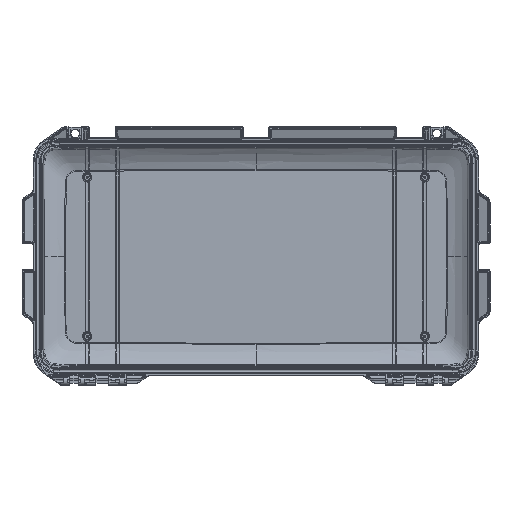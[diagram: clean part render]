
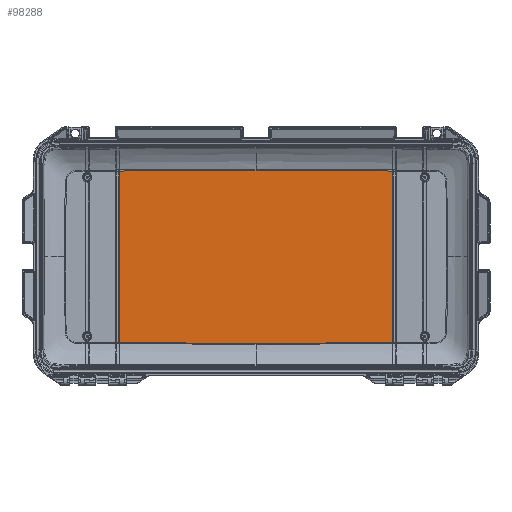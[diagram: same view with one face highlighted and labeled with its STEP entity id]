
A CAD part, front view. The second image highlights one B-rep face of the part: STEP entity #98288.
In plain terms, the highlighted planar face has unit normal (0, -1, 0).
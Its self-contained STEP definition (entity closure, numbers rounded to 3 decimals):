
#514 = CARTESIAN_POINT ( 'NONE',  ( -7.999, 2., -5.029 ) ) ;
#630 = VECTOR ( 'NONE', #18746, 39.37 ) ;
#1793 = VERTEX_POINT ( 'NONE', #36319 ) ;
#3099 = CARTESIAN_POINT ( 'NONE',  ( -7.999, 2., 5.029 ) ) ;
#3448 = LINE ( 'NONE', #50016, #102188 ) ;
#4234 = EDGE_CURVE ( 'NONE', #80826, #5194, #115962, .T. ) ;
#5194 = VERTEX_POINT ( 'NONE', #59925 ) ;
#5418 = CARTESIAN_POINT ( 'NONE',  ( 7.995, 2., -5.029 ) ) ;
#5868 = FACE_OUTER_BOUND ( 'NONE', #33794, .T. ) ;
#9286 = B_SPLINE_CURVE_WITH_KNOTS ( 'NONE', 3,
 ( #76460, #95671, #105319, #48080, #114938, #57687 ),
 .UNSPECIFIED., .F., .F.,
 ( 4, 2, 4 ),
 ( 0., 0.102, 0.203 ),
 .UNSPECIFIED. ) ;
#9472 = PLANE ( 'NONE',  #59848 ) ;
#9576 = B_SPLINE_CURVE_WITH_KNOTS ( 'NONE', 3,
 ( #120693, #78594, #15712, #82647 ),
 .UNSPECIFIED., .F., .F.,
 ( 4, 4 ),
 ( 0., 0. ),
 .UNSPECIFIED. ) ;
#9589 = LINE ( 'NONE', #38037, #630 ) ;
#12888 = CARTESIAN_POINT ( 'NONE',  ( 0., 2., 5.069 ) ) ;
#15021 = CARTESIAN_POINT ( 'NONE',  ( 7.998, 2., -5.029 ) ) ;
#15434 = B_SPLINE_CURVE_WITH_KNOTS ( 'NONE', 3,
 ( #88378, #30254, #40763, #107652, #50388, #117244 ),
 .UNSPECIFIED., .F., .F.,
 ( 4, 2, 4 ),
 ( 0., 0.102, 0.203 ),
 .UNSPECIFIED. ) ;
#15712 = CARTESIAN_POINT ( 'NONE',  ( -7.998, 2., 5.029 ) ) ;
#18746 = DIRECTION ( 'NONE',  ( 0., 0., -1. ) ) ;
#24860 = VERTEX_POINT ( 'NONE', #3099 ) ;
#25318 = ORIENTED_EDGE ( 'NONE', *, *, #122221, .T. ) ;
#25934 = ORIENTED_EDGE ( 'NONE', *, *, #53584, .T. ) ;
#30254 = CARTESIAN_POINT ( 'NONE',  ( 1.332, 2., -5.063 ) ) ;
#32560 = EDGE_CURVE ( 'NONE', #62700, #24860, #9576, .T. ) ;
#32849 = DIRECTION ( 'NONE',  ( 0., 1., 0. ) ) ;
#32970 = VERTEX_POINT ( 'NONE', #121967 ) ;
#33037 = VERTEX_POINT ( 'NONE', #46331 ) ;
#33205 = ORIENTED_EDGE ( 'NONE', *, *, #87754, .T. ) ;
#33794 = EDGE_LOOP ( 'NONE', ( #58062, #71673, #107941, #33205, #67073, #25318, #25934, #75425, #65067, #34893 ) ) ;
#34893 = ORIENTED_EDGE ( 'NONE', *, *, #32560, .T. ) ;
#34991 = B_SPLINE_CURVE_WITH_KNOTS ( 'NONE', 3,
 ( #36721, #103616, #46397, #113248, #56009, #122851 ),
 .UNSPECIFIED., .F., .F.,
 ( 4, 2, 4 ),
 ( 0., 0.102, 0.203 ),
 .UNSPECIFIED. ) ;
#36319 = CARTESIAN_POINT ( 'NONE',  ( 7.999, 2., 5.029 ) ) ;
#36642 = EDGE_CURVE ( 'NONE', #5194, #32970, #34991, .T. ) ;
#36721 = CARTESIAN_POINT ( 'NONE',  ( -7.995, 2., -5.029 ) ) ;
#38037 = CARTESIAN_POINT ( 'NONE',  ( -7.999, 2., 0. ) ) ;
#40763 = CARTESIAN_POINT ( 'NONE',  ( 2.665, 2., -5.057 ) ) ;
#43439 = B_SPLINE_CURVE_WITH_KNOTS ( 'NONE', 3,
 ( #87693, #97311, #106951, #49683, #116539, #59298 ),
 .UNSPECIFIED., .F., .F.,
 ( 4, 2, 4 ),
 ( 0., 0.102, 0.203 ),
 .UNSPECIFIED. ) ;
#46306 = CARTESIAN_POINT ( 'NONE',  ( -7.999, 2., -5.029 ) ) ;
#46331 = CARTESIAN_POINT ( 'NONE',  ( 7.999, 2., -5.029 ) ) ;
#46397 = CARTESIAN_POINT ( 'NONE',  ( -5.33, 2., -5.043 ) ) ;
#48080 = CARTESIAN_POINT ( 'NONE',  ( -5.33, 2., 5.043 ) ) ;
#49683 = CARTESIAN_POINT ( 'NONE',  ( 2.665, 2., 5.057 ) ) ;
#50016 = CARTESIAN_POINT ( 'NONE',  ( 7.999, 2., 0. ) ) ;
#50388 = CARTESIAN_POINT ( 'NONE',  ( 6.662, 2., -5.036 ) ) ;
#53584 = EDGE_CURVE ( 'NONE', #1793, #73727, #113737, .T. ) ;
#56009 = CARTESIAN_POINT ( 'NONE',  ( -1.332, 2., -5.063 ) ) ;
#57687 = CARTESIAN_POINT ( 'NONE',  ( -7.995, 2., 5.029 ) ) ;
#57857 = CARTESIAN_POINT ( 'NONE',  ( -7.996, 2., -5.029 ) ) ;
#58062 = ORIENTED_EDGE ( 'NONE', *, *, #95994, .T. ) ;
#58587 = VERTEX_POINT ( 'NONE', #77742 ) ;
#59298 = CARTESIAN_POINT ( 'NONE',  ( 0., 2., 5.069 ) ) ;
#59848 = AXIS2_PLACEMENT_3D ( 'NONE', #86045, #32849, #99755 ) ;
#59925 = CARTESIAN_POINT ( 'NONE',  ( -7.995, 2., -5.029 ) ) ;
#62046 = EDGE_CURVE ( 'NONE', #73727, #96152, #43439, .T. ) ;
#62700 = VERTEX_POINT ( 'NONE', #95393 ) ;
#64560 = CARTESIAN_POINT ( 'NONE',  ( 7.995, 2., 5.029 ) ) ;
#65067 = ORIENTED_EDGE ( 'NONE', *, *, #81624, .T. ) ;
#65070 = B_SPLINE_CURVE_WITH_KNOTS ( 'NONE', 3,
 ( #5418, #120008, #15021, #81981 ),
 .UNSPECIFIED., .F., .F.,
 ( 4, 4 ),
 ( 0., 0. ),
 .UNSPECIFIED. ) ;
#67073 = ORIENTED_EDGE ( 'NONE', *, *, #109074, .T. ) ;
#67423 = CARTESIAN_POINT ( 'NONE',  ( -7.995, 2., -5.029 ) ) ;
#71673 = ORIENTED_EDGE ( 'NONE', *, *, #4234, .T. ) ;
#73727 = VERTEX_POINT ( 'NONE', #75366 ) ;
#73764 = CARTESIAN_POINT ( 'NONE',  ( 7.998, 2., 5.029 ) ) ;
#75366 = CARTESIAN_POINT ( 'NONE',  ( 7.995, 2., 5.029 ) ) ;
#75425 = ORIENTED_EDGE ( 'NONE', *, *, #62046, .T. ) ;
#76460 = CARTESIAN_POINT ( 'NONE',  ( 0., 2., 5.069 ) ) ;
#77742 = CARTESIAN_POINT ( 'NONE',  ( 7.995, 2., -5.029 ) ) ;
#78594 = CARTESIAN_POINT ( 'NONE',  ( -7.996, 2., 5.029 ) ) ;
#80826 = VERTEX_POINT ( 'NONE', #46306 ) ;
#81624 = EDGE_CURVE ( 'NONE', #96152, #62700, #9286, .T. ) ;
#81981 = CARTESIAN_POINT ( 'NONE',  ( 7.999, 2., -5.029 ) ) ;
#82647 = CARTESIAN_POINT ( 'NONE',  ( -7.999, 2., 5.029 ) ) ;
#86045 = CARTESIAN_POINT ( 'NONE',  ( 0., 2., 0. ) ) ;
#87693 = CARTESIAN_POINT ( 'NONE',  ( 7.995, 2., 5.029 ) ) ;
#87754 = EDGE_CURVE ( 'NONE', #32970, #58587, #15434, .T. ) ;
#88378 = CARTESIAN_POINT ( 'NONE',  ( 0., 2., -5.069 ) ) ;
#95393 = CARTESIAN_POINT ( 'NONE',  ( -7.995, 2., 5.029 ) ) ;
#95671 = CARTESIAN_POINT ( 'NONE',  ( -1.332, 2., 5.063 ) ) ;
#95994 = EDGE_CURVE ( 'NONE', #24860, #80826, #9589, .T. ) ;
#96152 = VERTEX_POINT ( 'NONE', #12888 ) ;
#97311 = CARTESIAN_POINT ( 'NONE',  ( 6.662, 2., 5.036 ) ) ;
#98288 = ADVANCED_FACE ( 'NONE', ( #5868 ), #9472, .F. ) ;
#99755 = DIRECTION ( 'NONE',  ( 0., 0., 1. ) ) ;
#102188 = VECTOR ( 'NONE', #116858, 39.37 ) ;
#102610 = CARTESIAN_POINT ( 'NONE',  ( 7.999, 2., 5.029 ) ) ;
#103616 = CARTESIAN_POINT ( 'NONE',  ( -6.662, 2., -5.036 ) ) ;
#105319 = CARTESIAN_POINT ( 'NONE',  ( -2.665, 2., 5.057 ) ) ;
#106951 = CARTESIAN_POINT ( 'NONE',  ( 5.33, 2., 5.043 ) ) ;
#107652 = CARTESIAN_POINT ( 'NONE',  ( 5.33, 2., -5.043 ) ) ;
#107941 = ORIENTED_EDGE ( 'NONE', *, *, #36642, .T. ) ;
#109074 = EDGE_CURVE ( 'NONE', #58587, #33037, #65070, .T. ) ;
#113248 = CARTESIAN_POINT ( 'NONE',  ( -2.665, 2., -5.057 ) ) ;
#113737 = B_SPLINE_CURVE_WITH_KNOTS ( 'NONE', 3,
 ( #102610, #73764, #121874, #64560 ),
 .UNSPECIFIED., .F., .F.,
 ( 4, 4 ),
 ( 0., 0. ),
 .UNSPECIFIED. ) ;
#114938 = CARTESIAN_POINT ( 'NONE',  ( -6.662, 2., 5.036 ) ) ;
#115108 = CARTESIAN_POINT ( 'NONE',  ( -7.998, 2., -5.029 ) ) ;
#115962 = B_SPLINE_CURVE_WITH_KNOTS ( 'NONE', 3,
 ( #514, #115108, #57857, #67423 ),
 .UNSPECIFIED., .F., .F.,
 ( 4, 4 ),
 ( 0., 0. ),
 .UNSPECIFIED. ) ;
#116539 = CARTESIAN_POINT ( 'NONE',  ( 1.332, 2., 5.063 ) ) ;
#116858 = DIRECTION ( 'NONE',  ( 0., 0., 1. ) ) ;
#117244 = CARTESIAN_POINT ( 'NONE',  ( 7.995, 2., -5.029 ) ) ;
#120008 = CARTESIAN_POINT ( 'NONE',  ( 7.996, 2., -5.029 ) ) ;
#120693 = CARTESIAN_POINT ( 'NONE',  ( -7.995, 2., 5.029 ) ) ;
#121874 = CARTESIAN_POINT ( 'NONE',  ( 7.996, 2., 5.029 ) ) ;
#121967 = CARTESIAN_POINT ( 'NONE',  ( 0., 2., -5.069 ) ) ;
#122221 = EDGE_CURVE ( 'NONE', #33037, #1793, #3448, .T. ) ;
#122851 = CARTESIAN_POINT ( 'NONE',  ( 0., 2., -5.069 ) ) ;
